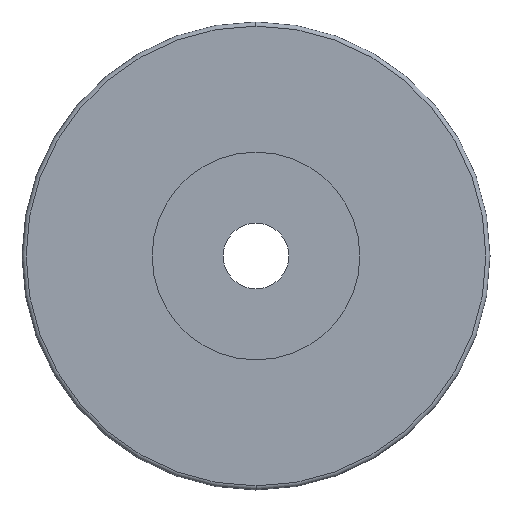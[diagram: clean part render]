
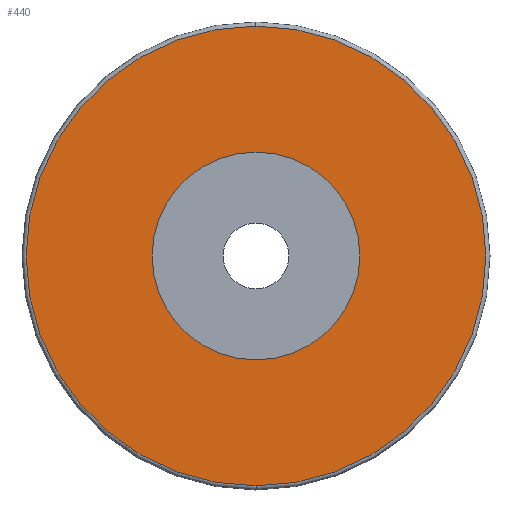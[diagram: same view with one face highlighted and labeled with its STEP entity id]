
A CAD part, left-side view. The second image highlights one B-rep face of the part: STEP entity #440.
In plain terms, the highlighted planar face has unit normal (-1, 0, 0).
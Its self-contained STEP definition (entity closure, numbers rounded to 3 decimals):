
#10 = CIRCLE ( 'NONE', #408, 12.65 ) ;
#24 = EDGE_CURVE ( 'NONE', #494, #172, #10, .T. ) ;
#36 = CIRCLE ( 'NONE', #114, 12.65 ) ;
#60 = AXIS2_PLACEMENT_3D ( 'NONE', #444, #331, #209 ) ;
#70 = CARTESIAN_POINT ( 'NONE',  ( 0., 0., 12.65 ) ) ;
#71 = CIRCLE ( 'NONE', #436, 28. ) ;
#103 = AXIS2_PLACEMENT_3D ( 'NONE', #165, #125, #250 ) ;
#104 = CARTESIAN_POINT ( 'NONE',  ( 0., 0., -28. ) ) ;
#114 = AXIS2_PLACEMENT_3D ( 'NONE', #219, #179, #510 ) ;
#122 = DIRECTION ( 'NONE',  ( 0., 0., -1. ) ) ;
#125 = DIRECTION ( 'NONE',  ( -1., 0., 0. ) ) ;
#165 = CARTESIAN_POINT ( 'NONE',  ( 0., 0., 0. ) ) ;
#167 = CARTESIAN_POINT ( 'NONE',  ( 0., 0., 0. ) ) ;
#172 = VERTEX_POINT ( 'NONE', #70 ) ;
#179 = DIRECTION ( 'NONE',  ( -1., 0., 0. ) ) ;
#194 = VERTEX_POINT ( 'NONE', #335 ) ;
#205 = FACE_OUTER_BOUND ( 'NONE', #497, .T. ) ;
#209 = DIRECTION ( 'NONE',  ( 0., 0., -1. ) ) ;
#215 = EDGE_CURVE ( 'NONE', #172, #494, #36, .T. ) ;
#219 = CARTESIAN_POINT ( 'NONE',  ( 0., 0., 0. ) ) ;
#235 = CARTESIAN_POINT ( 'NONE',  ( 0., 0., 0. ) ) ;
#250 = DIRECTION ( 'NONE',  ( 0., 0., -1. ) ) ;
#254 = EDGE_LOOP ( 'NONE', ( #263, #460 ) ) ;
#257 = ORIENTED_EDGE ( 'NONE', *, *, #495, .T. ) ;
#263 = ORIENTED_EDGE ( 'NONE', *, *, #215, .F. ) ;
#270 = DIRECTION ( 'NONE',  ( 0., 0., 1. ) ) ;
#305 = CIRCLE ( 'NONE', #103, 28. ) ;
#316 = VERTEX_POINT ( 'NONE', #104 ) ;
#331 = DIRECTION ( 'NONE',  ( 1., 0., 0. ) ) ;
#335 = CARTESIAN_POINT ( 'NONE',  ( 0., 0., 28. ) ) ;
#364 = CARTESIAN_POINT ( 'NONE',  ( 0., 0., -12.65 ) ) ;
#406 = PLANE ( 'NONE',  #60 ) ;
#408 = AXIS2_PLACEMENT_3D ( 'NONE', #235, #439, #270 ) ;
#436 = AXIS2_PLACEMENT_3D ( 'NONE', #167, #496, #122 ) ;
#439 = DIRECTION ( 'NONE',  ( -1., 0., 0. ) ) ;
#440 = ADVANCED_FACE ( 'NONE', ( #205, #446 ), #406, .F. ) ;
#444 = CARTESIAN_POINT ( 'NONE',  ( 0., 12.65, 0. ) ) ;
#446 = FACE_BOUND ( 'NONE', #254, .T. ) ;
#460 = ORIENTED_EDGE ( 'NONE', *, *, #24, .F. ) ;
#494 = VERTEX_POINT ( 'NONE', #364 ) ;
#495 = EDGE_CURVE ( 'NONE', #194, #316, #305, .T. ) ;
#496 = DIRECTION ( 'NONE',  ( -1., 0., 0. ) ) ;
#497 = EDGE_LOOP ( 'NONE', ( #513, #257 ) ) ;
#510 = DIRECTION ( 'NONE',  ( 0., 0., 1. ) ) ;
#513 = ORIENTED_EDGE ( 'NONE', *, *, #521, .T. ) ;
#521 = EDGE_CURVE ( 'NONE', #316, #194, #71, .T. ) ;
